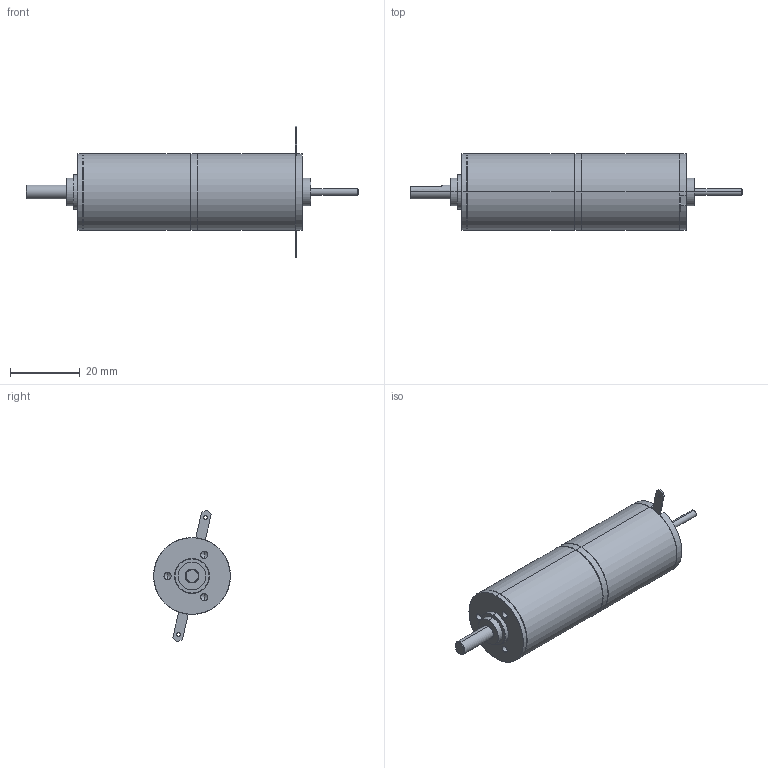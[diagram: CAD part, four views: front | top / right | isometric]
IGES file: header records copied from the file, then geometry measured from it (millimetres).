
Start section: SolidWorks IGES file using analytic representation for surfaces
Global section: file name: \\Uranus\R&D\plans\CATALOGUES\Topstock_Piece_IGES\AMax22CLL_+_GP022C 2etages.IGS; native system: SolidWorks 2008; preprocessor: SolidWorks 2008; author: JUL; date: 090325.183519; units: millimetre
Bounding box: 95.15 x 22 x 37.64 mm (x, y, z)
Surface area: 7502.4 mm2 (no closed solid volume)
Topology: 0 solids, 0 shells, 147 faces, 1709 edges, 1683 vertices
Faces by surface type: revolution 106, bspline 41
